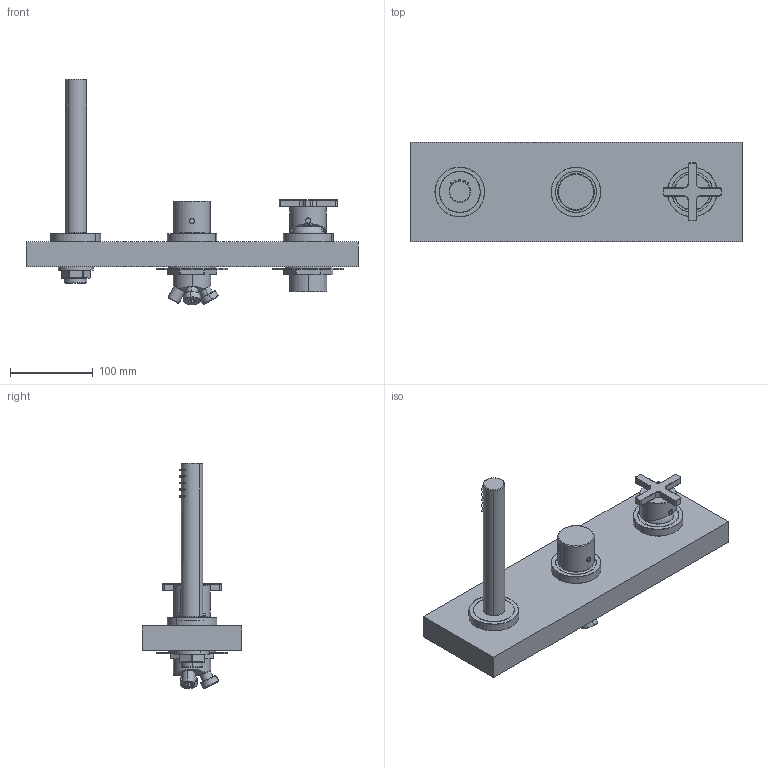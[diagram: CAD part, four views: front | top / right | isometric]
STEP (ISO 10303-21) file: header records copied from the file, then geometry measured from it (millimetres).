
FILE_DESCRIPTION (( 'STEP AP203' ), '1' );
FILE_NAME ('B3H1.STEP', '2025-06-06T14:44:24', ( '' ), ( '' ), 'SwSTEP 2.0', 'SolidWorks 2024', '' );
FILE_SCHEMA (( 'CONFIG_CONTROL_DESIGN' ));
Length unit declared in the file: millimetre
Products named in the file (30): BORDO VASCA 3 FORI V; C24.0121.00.0; C31.00.0006.01; C11.15.0006; DOC8; C25.0216.00.0; C11.11.0012; C11.12.0017; C12.00.0043; C10.00.0015; C24.2050.00.1; C24.0235.00.0_Default<A macchina>; C11.10.0059; B3H1; C25.0162.00.0; C11.12.0009; C24.2035.00.0; C24.0238.00.0; AS568_00; C24.0341.00.0; C47.00.0015; C24.0197.00.1; C11.14.0003; AS854_00; C10.00.0011; C47.00.0023.01; C11.14.0009; AS814_00; AS569_00; C24.0657.00.0_Default<A macchina>
Assembly tree (43 placements, depth 4):
  B3H1
    BORDO VASCA 3 FORI V
    AS568_00
      C12.00.0043  x2
      C24.0121.00.0
      C24.0235.00.0_Default<A macchina>
      C10.00.0011
      C47.00.0015
      C31.00.0006.01
      C24.0341.00.0
      C11.14.0009
      C25.0162.00.0  x2
      C25.0216.00.0
      C47.00.0023.01
    AS854_00
      C24.0657.00.0_Default<A macchina>
      C24.0121.00.0
      C47.00.0015
      C10.00.0015
      C12.00.0043  x2
      C47.00.0023.01
      AS814_00
        C24.2035.00.0
        C24.2050.00.1
        C11.15.0006
        C11.10.0059
      C11.14.0003
      C31.00.0006.01
    AS569_00
      C24.0197.00.1
      C24.0121.00.0
      C12.00.0043  x2
    DOC8
    C11.12.0017  x2
    C11.12.0009  x2
    C24.0238.00.0  x2
    C11.11.0012
Bounding box: 400 x 120 x 271.83 mm (x, y, z)
Volume: 1750114 mm3; surface area: 331620.3 mm2
Topology: 45 solids, 45 shells, 1339 faces, 2969 edges, 1816 vertices
Faces by surface type: cylinder 471, plane 425, cone 289, torus 88, bspline 60, sphere 6
Entity records: 35797 total; most frequent: CARTESIAN_POINT 7335, DIRECTION 5622, ORIENTED_EDGE 4844, EDGE_CURVE 2422, AXIS2_PLACEMENT_3D 2262, VERTEX_POINT 1494, EDGE_LOOP 1264, CIRCLE 1126
